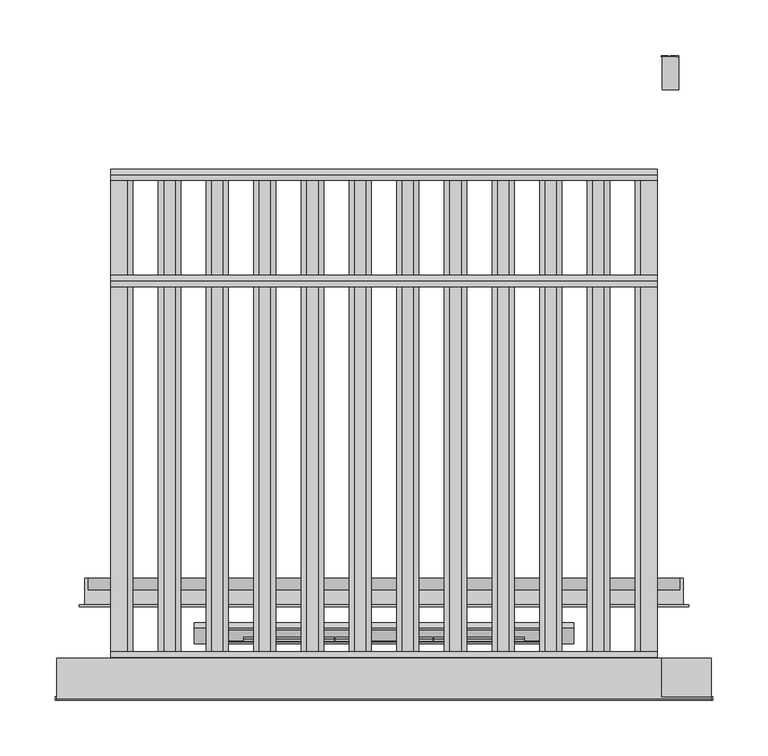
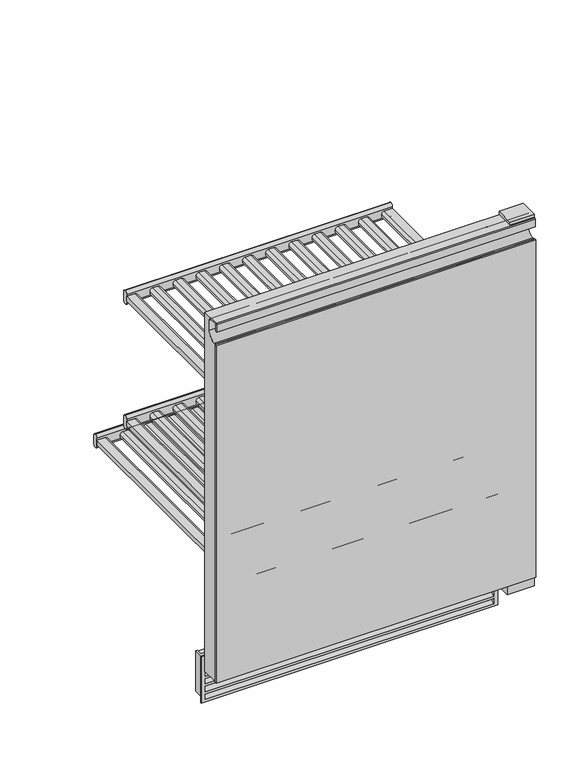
"""IFC4 building model written with IfcOpenShell, lengths in millimetres: proxy geometry, 09850180_AUS_KWT6321UG : 36632100_AUS_9850180_KWT6321UG."""

from ifc_helpers import new_model, si_unit, point, frame, frame_2d, origin, place, context, project, spatial, polyline, circle_curve, trimmed, segment, composite_curve, outline, extrude, faceted_brep, source, transform, mapped, element, save
from ifc_brep_helpers import plane_surface, cylinder_surface, revolved_surface, advanced_brep


def specialty_equipment_dfb418a5(model_context):
    return source(origin(), model_context, "Body", "SolidModel", [
        extrude(outline(composite_curve([segment(polyline([(621.6, -231.5), (621.6, -246.5), (612.2, -246.5), (612.2, -226.5), (616.6, -226.5)]), True, "CONTINUOUS"), segment(trimmed(circle_curve(frame_2d((616.6, -231.5)), 5.0), [point((616.6, -226.5))], [point((621.6, -231.5))], False, "CARTESIAN"), True, "CONTINUOUS")], self_intersect=False)), frame((0.0, 44.0, 0.0), z_axis=(0.0, 1.0, 0.0), x_axis=(0.0, 0.0, 1.0)), (0.0, 0.0, 1.0), 329.5),
        extrude(outline(composite_curve([segment(polyline([(621.6, -59.5), (621.6, -69.5)]), True, "CONTINUOUS"), segment(trimmed(circle_curve(frame_2d((616.6, -69.5)), 5.0), [point((621.6, -69.5))], [point((616.6, -74.5))], False, "CARTESIAN"), True, "CONTINUOUS"), segment(polyline([(616.6, -74.5), (612.2, -74.5), (612.2, -54.5), (616.6, -54.5)]), True, "CONTINUOUS"), segment(trimmed(circle_curve(frame_2d((616.6, -59.5)), 5.0), [point((616.6, -54.5))], [point((621.6, -59.5))], False, "CARTESIAN"), True, "CONTINUOUS")], self_intersect=False)), frame((0.0, 44.0, 0.0), z_axis=(0.0, 1.0, 0.0), x_axis=(0.0, 0.0, 1.0)), (0.0, 0.0, 1.0), 329.5),
        extrude(outline(composite_curve([segment(polyline([(621.6, -102.5), (621.6, -112.5)]), True, "CONTINUOUS"), segment(trimmed(circle_curve(frame_2d((616.6, -112.5)), 5.0), [point((621.6, -112.5))], [point((616.6, -117.5))], False, "CARTESIAN"), True, "CONTINUOUS"), segment(polyline([(616.6, -117.5), (612.2, -117.5), (612.2, -97.5), (616.6, -97.5)]), True, "CONTINUOUS"), segment(trimmed(circle_curve(frame_2d((616.6, -102.5)), 5.0), [point((616.6, -97.5))], [point((621.6, -102.5))], False, "CARTESIAN"), True, "CONTINUOUS")], self_intersect=False)), frame((0.0, 44.0, 0.0), z_axis=(0.0, 1.0, 0.0), x_axis=(0.0, 0.0, 1.0)), (0.0, 0.0, 1.0), 329.5),
        extrude(outline(composite_curve([segment(polyline([(621.6, -145.5), (621.6, -155.5)]), True, "CONTINUOUS"), segment(trimmed(circle_curve(frame_2d((616.6, -155.5)), 5.0), [point((621.6, -155.5))], [point((616.6, -160.5))], False, "CARTESIAN"), True, "CONTINUOUS"), segment(polyline([(616.6, -160.5), (612.2, -160.5), (612.2, -140.5), (616.6, -140.5)]), True, "CONTINUOUS"), segment(trimmed(circle_curve(frame_2d((616.6, -145.5)), 5.0), [point((616.6, -140.5))], [point((621.6, -145.5))], False, "CARTESIAN"), True, "CONTINUOUS")], self_intersect=False)), frame((0.0, 44.0, 0.0), z_axis=(0.0, 1.0, 0.0), x_axis=(0.0, 0.0, 1.0)), (0.0, 0.0, 1.0), 329.5),
        extrude(outline(composite_curve([segment(polyline([(621.6, -188.5), (621.6, -198.5)]), True, "CONTINUOUS"), segment(trimmed(circle_curve(frame_2d((616.6, -198.5)), 5.0), [point((621.6, -198.5))], [point((616.6, -203.5))], False, "CARTESIAN"), True, "CONTINUOUS"), segment(polyline([(616.6, -203.5), (612.2, -203.5), (612.2, -183.5), (616.6, -183.5)]), True, "CONTINUOUS"), segment(trimmed(circle_curve(frame_2d((616.6, -188.5)), 5.0), [point((616.6, -183.5))], [point((621.6, -188.5))], False, "CARTESIAN"), True, "CONTINUOUS")], self_intersect=False)), frame((0.0, 44.0, 0.0), z_axis=(0.0, 1.0, 0.0), x_axis=(0.0, 0.0, 1.0)), (0.0, 0.0, 1.0), 329.5),
        extrude(outline(composite_curve([segment(polyline([(621.6, 69.5), (621.6, 59.5)]), True, "CONTINUOUS"), segment(trimmed(circle_curve(frame_2d((616.6, 59.5)), 5.0), [point((621.6, 59.5))], [point((616.6, 54.5))], False, "CARTESIAN"), True, "CONTINUOUS"), segment(polyline([(616.6, 54.5), (612.2, 54.5), (612.2, 74.5), (616.6, 74.5)]), True, "CONTINUOUS"), segment(trimmed(circle_curve(frame_2d((616.6, 69.5)), 5.0), [point((616.6, 74.5))], [point((621.6, 69.5))], False, "CARTESIAN"), True, "CONTINUOUS")], self_intersect=False)), frame((0.0, 44.0, 0.0), z_axis=(0.0, 1.0, 0.0), x_axis=(0.0, 0.0, 1.0)), (0.0, 0.0, 1.0), 329.5),
        extrude(outline(composite_curve([segment(polyline([(621.6, 112.5), (621.6, 102.5)]), True, "CONTINUOUS"), segment(trimmed(circle_curve(frame_2d((616.6, 102.5)), 5.0), [point((621.6, 102.5))], [point((616.6, 97.5))], False, "CARTESIAN"), True, "CONTINUOUS"), segment(polyline([(616.6, 97.5), (612.2, 97.5), (612.2, 117.5), (616.6, 117.5)]), True, "CONTINUOUS"), segment(trimmed(circle_curve(frame_2d((616.6, 112.5)), 5.0), [point((616.6, 117.5))], [point((621.6, 112.5))], False, "CARTESIAN"), True, "CONTINUOUS")], self_intersect=False)), frame((0.0, 44.0, 0.0), z_axis=(0.0, 1.0, 0.0), x_axis=(0.0, 0.0, 1.0)), (0.0, 0.0, 1.0), 329.5),
        extrude(outline(composite_curve([segment(polyline([(621.6, 155.5), (621.6, 145.5)]), True, "CONTINUOUS"), segment(trimmed(circle_curve(frame_2d((616.6, 145.5)), 5.0), [point((621.6, 145.5))], [point((616.6, 140.5))], False, "CARTESIAN"), True, "CONTINUOUS"), segment(polyline([(616.6, 140.5), (612.2, 140.5), (612.2, 160.5), (616.6, 160.5)]), True, "CONTINUOUS"), segment(trimmed(circle_curve(frame_2d((616.6, 155.5)), 5.0), [point((616.6, 160.5))], [point((621.6, 155.5))], False, "CARTESIAN"), True, "CONTINUOUS")], self_intersect=False)), frame((0.0, 44.0, 0.0), z_axis=(0.0, 1.0, 0.0), x_axis=(0.0, 0.0, 1.0)), (0.0, 0.0, 1.0), 329.5),
        extrude(outline(composite_curve([segment(polyline([(621.6, 198.5), (621.6, 188.5)]), True, "CONTINUOUS"), segment(trimmed(circle_curve(frame_2d((616.6, 188.5)), 5.0), [point((621.6, 188.5))], [point((616.6, 183.5))], False, "CARTESIAN"), True, "CONTINUOUS"), segment(polyline([(616.6, 183.5), (612.2, 183.5), (612.2, 203.5), (616.6, 203.5)]), True, "CONTINUOUS"), segment(trimmed(circle_curve(frame_2d((616.6, 198.5)), 5.0), [point((616.6, 203.5))], [point((621.6, 198.5))], False, "CARTESIAN"), True, "CONTINUOUS")], self_intersect=False)), frame((0.0, 44.0, 0.0), z_axis=(0.0, 1.0, 0.0), x_axis=(0.0, 0.0, 1.0)), (0.0, 0.0, 1.0), 329.5),
        extrude(outline(composite_curve([segment(trimmed(circle_curve(frame_2d((616.6, 231.5)), 5.0), [point((621.6, 231.5))], [point((616.6, 226.5))], False, "CARTESIAN"), True, "CONTINUOUS"), segment(polyline([(616.6, 226.5), (612.2, 226.5), (612.2, 246.5), (621.6, 246.5), (621.6, 231.5)]), True, "CONTINUOUS")], self_intersect=False)), frame((0.0, 44.0, 0.0), z_axis=(0.0, 1.0, 0.0), x_axis=(0.0, 0.0, 1.0)), (0.0, 0.0, 1.0), 329.5),
        extrude(outline(composite_curve([segment(polyline([(621.6, -16.5), (621.6, -26.5)]), True, "CONTINUOUS"), segment(trimmed(circle_curve(frame_2d((616.6, -26.5)), 5.0), [point((621.6, -26.5))], [point((616.6, -31.5))], False, "CARTESIAN"), True, "CONTINUOUS"), segment(polyline([(616.6, -31.5), (612.2, -31.5), (612.2, -11.5), (616.6, -11.5)]), True, "CONTINUOUS"), segment(trimmed(circle_curve(frame_2d((616.6, -16.5)), 5.0), [point((616.6, -11.5))], [point((621.6, -16.5))], False, "CARTESIAN"), True, "CONTINUOUS")], self_intersect=False)), frame((0.0, 44.0, 0.0), z_axis=(0.0, 1.0, 0.0), x_axis=(0.0, 0.0, 1.0)), (0.0, 0.0, 1.0), 329.5),
        extrude(outline(composite_curve([segment(polyline([(621.6, 26.5), (621.6, 16.5)]), True, "CONTINUOUS"), segment(trimmed(circle_curve(frame_2d((616.6, 16.5)), 5.0), [point((621.6, 16.5))], [point((616.6, 11.5))], False, "CARTESIAN"), True, "CONTINUOUS"), segment(polyline([(616.6, 11.5), (612.2, 11.5), (612.2, 31.5), (616.6, 31.5)]), True, "CONTINUOUS"), segment(trimmed(circle_curve(frame_2d((616.6, 26.5)), 5.0), [point((616.6, 31.5))], [point((621.6, 26.5))], False, "CARTESIAN"), True, "CONTINUOUS")], self_intersect=False)), frame((0.0, 44.0, 0.0), z_axis=(0.0, 1.0, 0.0), x_axis=(0.0, 0.0, 1.0)), (0.0, 0.0, 1.0), 329.5),
        extrude(outline(composite_curve([segment(polyline([(376.6, -231.5), (376.6, -246.5), (367.2, -246.5), (367.2, -226.5), (371.6, -226.5)]), True, "CONTINUOUS"), segment(trimmed(circle_curve(frame_2d((371.6, -231.5)), 5.0), [point((371.6, -226.5))], [point((376.6, -231.5))], False, "CARTESIAN"), True, "CONTINUOUS")], self_intersect=False)), frame((0.0, 44.0, 0.0), z_axis=(0.0, 1.0, 0.0), x_axis=(0.0, 0.0, 1.0)), (0.0, 0.0, 1.0), 329.5),
        extrude(outline(composite_curve([segment(polyline([(376.6, -59.5), (376.6, -69.5)]), True, "CONTINUOUS"), segment(trimmed(circle_curve(frame_2d((371.6, -69.5)), 5.0), [point((376.6, -69.5))], [point((371.6, -74.5))], False, "CARTESIAN"), True, "CONTINUOUS"), segment(polyline([(371.6, -74.5), (367.2, -74.5), (367.2, -54.5), (371.6, -54.5)]), True, "CONTINUOUS"), segment(trimmed(circle_curve(frame_2d((371.6, -59.5)), 5.0), [point((371.6, -54.5))], [point((376.6, -59.5))], False, "CARTESIAN"), True, "CONTINUOUS")], self_intersect=False)), frame((0.0, 44.0, 0.0), z_axis=(0.0, 1.0, 0.0), x_axis=(0.0, 0.0, 1.0)), (0.0, 0.0, 1.0), 329.5),
        extrude(outline(composite_curve([segment(polyline([(376.6, -102.5), (376.6, -112.5)]), True, "CONTINUOUS"), segment(trimmed(circle_curve(frame_2d((371.6, -112.5)), 5.0), [point((376.6, -112.5))], [point((371.6, -117.5))], False, "CARTESIAN"), True, "CONTINUOUS"), segment(polyline([(371.6, -117.5), (367.2, -117.5), (367.2, -97.5), (371.6, -97.5)]), True, "CONTINUOUS"), segment(trimmed(circle_curve(frame_2d((371.6, -102.5)), 5.0), [point((371.6, -97.5))], [point((376.6, -102.5))], False, "CARTESIAN"), True, "CONTINUOUS")], self_intersect=False)), frame((0.0, 44.0, 0.0), z_axis=(0.0, 1.0, 0.0), x_axis=(0.0, 0.0, 1.0)), (0.0, 0.0, 1.0), 329.5),
        extrude(outline(composite_curve([segment(polyline([(376.6, -145.5), (376.6, -155.5)]), True, "CONTINUOUS"), segment(trimmed(circle_curve(frame_2d((371.6, -155.5)), 5.0), [point((376.6, -155.5))], [point((371.6, -160.5))], False, "CARTESIAN"), True, "CONTINUOUS"), segment(polyline([(371.6, -160.5), (367.2, -160.5), (367.2, -140.5), (371.6, -140.5)]), True, "CONTINUOUS"), segment(trimmed(circle_curve(frame_2d((371.6, -145.5)), 5.0), [point((371.6, -140.5))], [point((376.6, -145.5))], False, "CARTESIAN"), True, "CONTINUOUS")], self_intersect=False)), frame((0.0, 44.0, 0.0), z_axis=(0.0, 1.0, 0.0), x_axis=(0.0, 0.0, 1.0)), (0.0, 0.0, 1.0), 329.5),
        extrude(outline(composite_curve([segment(polyline([(376.6, -188.5), (376.6, -198.5)]), True, "CONTINUOUS"), segment(trimmed(circle_curve(frame_2d((371.6, -198.5)), 5.0), [point((376.6, -198.5))], [point((371.6, -203.5))], False, "CARTESIAN"), True, "CONTINUOUS"), segment(polyline([(371.6, -203.5), (367.2, -203.5), (367.2, -183.5), (371.6, -183.5)]), True, "CONTINUOUS"), segment(trimmed(circle_curve(frame_2d((371.6, -188.5)), 5.0), [point((371.6, -183.5))], [point((376.6, -188.5))], False, "CARTESIAN"), True, "CONTINUOUS")], self_intersect=False)), frame((0.0, 44.0, 0.0), z_axis=(0.0, 1.0, 0.0), x_axis=(0.0, 0.0, 1.0)), (0.0, 0.0, 1.0), 329.5),
        extrude(outline(composite_curve([segment(polyline([(376.6, 69.5), (376.6, 59.5)]), True, "CONTINUOUS"), segment(trimmed(circle_curve(frame_2d((371.6, 59.5)), 5.0), [point((376.6, 59.5))], [point((371.6, 54.5))], False, "CARTESIAN"), True, "CONTINUOUS"), segment(polyline([(371.6, 54.5), (367.2, 54.5), (367.2, 74.5), (371.6, 74.5)]), True, "CONTINUOUS"), segment(trimmed(circle_curve(frame_2d((371.6, 69.5)), 5.0), [point((371.6, 74.5))], [point((376.6, 69.5))], False, "CARTESIAN"), True, "CONTINUOUS")], self_intersect=False)), frame((0.0, 44.0, 0.0), z_axis=(0.0, 1.0, 0.0), x_axis=(0.0, 0.0, 1.0)), (0.0, 0.0, 1.0), 329.5),
        extrude(outline(composite_curve([segment(polyline([(376.6, 112.5), (376.6, 102.5)]), True, "CONTINUOUS"), segment(trimmed(circle_curve(frame_2d((371.6, 102.5)), 5.0), [point((376.6, 102.5))], [point((371.6, 97.5))], False, "CARTESIAN"), True, "CONTINUOUS"), segment(polyline([(371.6, 97.5), (367.2, 97.5), (367.2, 117.5), (371.6, 117.5)]), True, "CONTINUOUS"), segment(trimmed(circle_curve(frame_2d((371.6, 112.5)), 5.0), [point((371.6, 117.5))], [point((376.6, 112.5))], False, "CARTESIAN"), True, "CONTINUOUS")], self_intersect=False)), frame((0.0, 44.0, 0.0), z_axis=(0.0, 1.0, 0.0), x_axis=(0.0, 0.0, 1.0)), (0.0, 0.0, 1.0), 329.5),
        extrude(outline(composite_curve([segment(polyline([(376.6, 155.5), (376.6, 145.5)]), True, "CONTINUOUS"), segment(trimmed(circle_curve(frame_2d((371.6, 145.5)), 5.0), [point((376.6, 145.5))], [point((371.6, 140.5))], False, "CARTESIAN"), True, "CONTINUOUS"), segment(polyline([(371.6, 140.5), (367.2, 140.5), (367.2, 160.5), (371.6, 160.5)]), True, "CONTINUOUS"), segment(trimmed(circle_curve(frame_2d((371.6, 155.5)), 5.0), [point((371.6, 160.5))], [point((376.6, 155.5))], False, "CARTESIAN"), True, "CONTINUOUS")], self_intersect=False)), frame((0.0, 44.0, 0.0), z_axis=(0.0, 1.0, 0.0), x_axis=(0.0, 0.0, 1.0)), (0.0, 0.0, 1.0), 329.5),
        extrude(outline(composite_curve([segment(polyline([(376.6, 198.5), (376.6, 188.5)]), True, "CONTINUOUS"), segment(trimmed(circle_curve(frame_2d((371.6, 188.5)), 5.0), [point((376.6, 188.5))], [point((371.6, 183.5))], False, "CARTESIAN"), True, "CONTINUOUS"), segment(polyline([(371.6, 183.5), (367.2, 183.5), (367.2, 203.5), (371.6, 203.5)]), True, "CONTINUOUS"), segment(trimmed(circle_curve(frame_2d((371.6, 198.5)), 5.0), [point((371.6, 203.5))], [point((376.6, 198.5))], False, "CARTESIAN"), True, "CONTINUOUS")], self_intersect=False)), frame((0.0, 44.0, 0.0), z_axis=(0.0, 1.0, 0.0), x_axis=(0.0, 0.0, 1.0)), (0.0, 0.0, 1.0), 329.5),
        extrude(outline(composite_curve([segment(trimmed(circle_curve(frame_2d((371.6, 231.5)), 5.0), [point((376.6, 231.5))], [point((371.6, 226.5))], False, "CARTESIAN"), True, "CONTINUOUS"), segment(polyline([(371.6, 226.5), (367.2, 226.5), (367.2, 246.5), (376.6, 246.5), (376.6, 231.5)]), True, "CONTINUOUS")], self_intersect=False)), frame((0.0, 44.0, 0.0), z_axis=(0.0, 1.0, 0.0), x_axis=(0.0, 0.0, 1.0)), (0.0, 0.0, 1.0), 329.5),
        extrude(outline(composite_curve([segment(polyline([(376.6, -16.5), (376.6, -26.5)]), True, "CONTINUOUS"), segment(trimmed(circle_curve(frame_2d((371.6, -26.5)), 5.0), [point((376.6, -26.5))], [point((371.6, -31.5))], False, "CARTESIAN"), True, "CONTINUOUS"), segment(polyline([(371.6, -31.5), (367.2, -31.5), (367.2, -11.5), (371.6, -11.5)]), True, "CONTINUOUS"), segment(trimmed(circle_curve(frame_2d((371.6, -16.5)), 5.0), [point((371.6, -11.5))], [point((376.6, -16.5))], False, "CARTESIAN"), True, "CONTINUOUS")], self_intersect=False)), frame((0.0, 44.0, 0.0), z_axis=(0.0, 1.0, 0.0), x_axis=(0.0, 0.0, 1.0)), (0.0, 0.0, 1.0), 329.5),
        extrude(outline(composite_curve([segment(polyline([(376.6, 26.5), (376.6, 16.5)]), True, "CONTINUOUS"), segment(trimmed(circle_curve(frame_2d((371.6, 16.5)), 5.0), [point((376.6, 16.5))], [point((371.6, 11.5))], False, "CARTESIAN"), True, "CONTINUOUS"), segment(polyline([(371.6, 11.5), (367.2, 11.5), (367.2, 31.5), (371.6, 31.5)]), True, "CONTINUOUS"), segment(trimmed(circle_curve(frame_2d((371.6, 26.5)), 5.0), [point((371.6, 31.5))], [point((376.6, 26.5))], False, "CARTESIAN"), True, "CONTINUOUS")], self_intersect=False)), frame((0.0, 44.0, 0.0), z_axis=(0.0, 1.0, 0.0), x_axis=(0.0, 0.0, 1.0)), (0.0, 0.0, 1.0), 329.5),
        extrude(outline(composite_curve([segment(trimmed(circle_curve(frame_2d((39.0, 625.2)), 5.0), [point((34.0, 625.2))], [point((39.0, 630.2))], False, "CARTESIAN"), True, "CONTINUOUS"), segment(trimmed(circle_curve(frame_2d((39.0, 625.2)), 5.0), [point((39.0, 630.2))], [point((44.0, 625.2))], False, "CARTESIAN"), True, "CONTINUOUS"), segment(polyline([(44.0, 625.2), (44.0, 609.2)]), True, "CONTINUOUS"), segment(trimmed(circle_curve(frame_2d((39.0, 609.2)), 5.0), [point((44.0, 609.2))], [point((39.0, 604.2))], False, "CARTESIAN"), True, "CONTINUOUS"), segment(trimmed(circle_curve(frame_2d((39.0, 609.2)), 5.0), [point((39.0, 604.2))], [point((34.0, 609.2))], False, "CARTESIAN"), True, "CONTINUOUS"), segment(polyline([(34.0, 609.2), (34.0, 625.2)]), True, "CONTINUOUS")], self_intersect=False)), frame((-246.5, 0.0, 0.0), z_axis=(1.0, 0.0, 0.0), x_axis=(0.0, 1.0, 0.0)), (0.0, 0.0, 1.0), 493.0),
        extrude(outline(composite_curve([segment(trimmed(circle_curve(frame_2d((378.5, 625.2)), 5.0), [point((373.5, 625.2))], [point((378.5, 630.2))], False, "CARTESIAN"), True, "CONTINUOUS"), segment(trimmed(circle_curve(frame_2d((378.5, 625.2)), 5.0), [point((378.5, 630.2))], [point((383.5, 625.2))], False, "CARTESIAN"), True, "CONTINUOUS"), segment(polyline([(383.5, 625.2), (383.5, 609.2)]), True, "CONTINUOUS"), segment(trimmed(circle_curve(frame_2d((378.5, 609.2)), 5.0), [point((383.5, 609.2))], [point((378.5, 604.2))], False, "CARTESIAN"), True, "CONTINUOUS"), segment(trimmed(circle_curve(frame_2d((378.5, 609.2)), 5.0), [point((378.5, 604.2))], [point((373.5, 609.2))], False, "CARTESIAN"), True, "CONTINUOUS"), segment(polyline([(373.5, 609.2), (373.5, 625.2)]), True, "CONTINUOUS")], self_intersect=False)), frame((-246.5, 0.0, 0.0), z_axis=(1.0, 0.0, 0.0), x_axis=(0.0, 1.0, 0.0)), (0.0, 0.0, 1.0), 493.0),
        extrude(outline(composite_curve([segment(trimmed(circle_curve(frame_2d((39.0, 380.2)), 5.0), [point((39.0, 385.2))], [point((44.0, 380.2))], False, "CARTESIAN"), True, "CONTINUOUS"), segment(polyline([(44.0, 380.2), (44.0, 364.2)]), True, "CONTINUOUS"), segment(trimmed(circle_curve(frame_2d((39.0, 364.2)), 5.0), [point((44.0, 364.2))], [point((39.0, 359.2))], False, "CARTESIAN"), True, "CONTINUOUS"), segment(trimmed(circle_curve(frame_2d((39.0, 364.2)), 5.0), [point((39.0, 359.2))], [point((34.0, 364.2))], False, "CARTESIAN"), True, "CONTINUOUS"), segment(polyline([(34.0, 364.2), (34.0, 380.2)]), True, "CONTINUOUS"), segment(trimmed(circle_curve(frame_2d((39.0, 380.2)), 5.0), [point((34.0, 380.2))], [point((39.0, 385.2))], False, "CARTESIAN"), True, "CONTINUOUS")], self_intersect=False)), frame((-246.5, 0.0, 0.0), z_axis=(1.0, 0.0, 0.0), x_axis=(0.0, 1.0, 0.0)), (0.0, 0.0, 1.0), 493.0),
        extrude(outline(composite_curve([segment(polyline([(383.5, 380.2), (383.5, 364.2)]), True, "CONTINUOUS"), segment(trimmed(circle_curve(frame_2d((378.5, 364.2)), 5.0), [point((383.5, 364.2))], [point((378.5, 359.2))], False, "CARTESIAN"), True, "CONTINUOUS"), segment(trimmed(circle_curve(frame_2d((378.5, 364.2)), 5.0), [point((378.5, 359.2))], [point((373.5, 364.2))], False, "CARTESIAN"), True, "CONTINUOUS"), segment(polyline([(373.5, 364.2), (373.5, 380.2)]), True, "CONTINUOUS"), segment(trimmed(circle_curve(frame_2d((378.5, 380.2)), 5.0), [point((373.5, 380.2))], [point((378.5, 385.2))], False, "CARTESIAN"), True, "CONTINUOUS"), segment(trimmed(circle_curve(frame_2d((378.5, 380.2)), 5.0), [point((378.5, 385.2))], [point((383.5, 380.2))], False, "CARTESIAN"), True, "CONTINUOUS")], self_intersect=False)), frame((-246.5, 0.0, 0.0), z_axis=(1.0, 0.0, 0.0), x_axis=(0.0, 1.0, 0.0)), (0.0, 0.0, 1.0), 493.0),
        extrude(outline(composite_curve([segment(polyline([(44.0, 285.2), (44.0, 269.2)]), True, "CONTINUOUS"), segment(trimmed(circle_curve(frame_2d((39.0, 269.2)), 5.0), [point((44.0, 269.2))], [point((39.0, 264.2))], False, "CARTESIAN"), True, "CONTINUOUS"), segment(trimmed(circle_curve(frame_2d((39.0, 269.2)), 5.0), [point((39.0, 264.2))], [point((34.0, 269.2))], False, "CARTESIAN"), True, "CONTINUOUS"), segment(polyline([(34.0, 269.2), (34.0, 285.2)]), True, "CONTINUOUS"), segment(trimmed(circle_curve(frame_2d((39.0, 285.2)), 5.0), [point((34.0, 285.2))], [point((39.0, 290.2))], False, "CARTESIAN"), True, "CONTINUOUS"), segment(trimmed(circle_curve(frame_2d((39.0, 285.2)), 5.0), [point((39.0, 290.2))], [point((44.0, 285.2))], False, "CARTESIAN"), True, "CONTINUOUS")], self_intersect=False)), frame((-246.5, 0.0, 0.0), z_axis=(1.0, 0.0, 0.0), x_axis=(0.0, 1.0, 0.0)), (0.0, 0.0, 1.0), 493.0),
        extrude(outline(composite_curve([segment(trimmed(circle_curve(frame_2d((474.5, 285.2)), 5.0), [point((469.5, 285.2))], [point((474.5, 290.2))], False, "CARTESIAN"), True, "CONTINUOUS"), segment(trimmed(circle_curve(frame_2d((474.5, 285.2)), 5.0), [point((474.5, 290.2))], [point((479.5, 285.2))], False, "CARTESIAN"), True, "CONTINUOUS"), segment(polyline([(479.5, 285.2), (479.5, 269.2)]), True, "CONTINUOUS"), segment(trimmed(circle_curve(frame_2d((474.5, 269.2)), 5.0), [point((479.5, 269.2))], [point((474.5, 264.2))], False, "CARTESIAN"), True, "CONTINUOUS"), segment(trimmed(circle_curve(frame_2d((474.5, 269.2)), 5.0), [point((474.5, 264.2))], [point((469.5, 269.2))], False, "CARTESIAN"), True, "CONTINUOUS"), segment(polyline([(469.5, 269.2), (469.5, 285.2)]), True, "CONTINUOUS")], self_intersect=False)), frame((-246.5, 0.0, 0.0), z_axis=(1.0, 0.0, 0.0), x_axis=(0.0, 1.0, 0.0)), (0.0, 0.0, 1.0), 493.0),
        extrude(outline(composite_curve([segment(polyline([(281.6, -231.5), (281.6, -246.5), (272.2, -246.5), (272.2, -226.5), (276.6, -226.5)]), True, "CONTINUOUS"), segment(trimmed(circle_curve(frame_2d((276.6, -231.5)), 5.0), [point((276.6, -226.5))], [point((281.6, -231.5))], False, "CARTESIAN"), True, "CONTINUOUS")], self_intersect=False)), frame((0.0, 44.0, 0.0), z_axis=(0.0, 1.0, 0.0), x_axis=(0.0, 0.0, 1.0)), (0.0, 0.0, 1.0), 425.5),
        extrude(outline(composite_curve([segment(polyline([(281.6, -59.5), (281.6, -69.5)]), True, "CONTINUOUS"), segment(trimmed(circle_curve(frame_2d((276.6, -69.5)), 5.0), [point((281.6, -69.5))], [point((276.6, -74.5))], False, "CARTESIAN"), True, "CONTINUOUS"), segment(polyline([(276.6, -74.5), (272.2, -74.5), (272.2, -54.5), (276.6, -54.5)]), True, "CONTINUOUS"), segment(trimmed(circle_curve(frame_2d((276.6, -59.5)), 5.0), [point((276.6, -54.5))], [point((281.6, -59.5))], False, "CARTESIAN"), True, "CONTINUOUS")], self_intersect=False)), frame((0.0, 44.0, 0.0), z_axis=(0.0, 1.0, 0.0), x_axis=(0.0, 0.0, 1.0)), (0.0, 0.0, 1.0), 425.5),
        extrude(outline(composite_curve([segment(polyline([(281.6, -102.5), (281.6, -112.5)]), True, "CONTINUOUS"), segment(trimmed(circle_curve(frame_2d((276.6, -112.5)), 5.0), [point((281.6, -112.5))], [point((276.6, -117.5))], False, "CARTESIAN"), True, "CONTINUOUS"), segment(polyline([(276.6, -117.5), (272.2, -117.5), (272.2, -97.5), (276.6, -97.5)]), True, "CONTINUOUS"), segment(trimmed(circle_curve(frame_2d((276.6, -102.5)), 5.0), [point((276.6, -97.5))], [point((281.6, -102.5))], False, "CARTESIAN"), True, "CONTINUOUS")], self_intersect=False)), frame((0.0, 44.0, 0.0), z_axis=(0.0, 1.0, 0.0), x_axis=(0.0, 0.0, 1.0)), (0.0, 0.0, 1.0), 425.5),
        extrude(outline(composite_curve([segment(polyline([(281.6, -145.5), (281.6, -155.5)]), True, "CONTINUOUS"), segment(trimmed(circle_curve(frame_2d((276.6, -155.5)), 5.0), [point((281.6, -155.5))], [point((276.6, -160.5))], False, "CARTESIAN"), True, "CONTINUOUS"), segment(polyline([(276.6, -160.5), (272.2, -160.5), (272.2, -140.5), (276.6, -140.5)]), True, "CONTINUOUS"), segment(trimmed(circle_curve(frame_2d((276.6, -145.5)), 5.0), [point((276.6, -140.5))], [point((281.6, -145.5))], False, "CARTESIAN"), True, "CONTINUOUS")], self_intersect=False)), frame((0.0, 44.0, 0.0), z_axis=(0.0, 1.0, 0.0), x_axis=(0.0, 0.0, 1.0)), (0.0, 0.0, 1.0), 425.5),
        extrude(outline(composite_curve([segment(polyline([(281.6, -188.5), (281.6, -198.5)]), True, "CONTINUOUS"), segment(trimmed(circle_curve(frame_2d((276.6, -198.5)), 5.0), [point((281.6, -198.5))], [point((276.6, -203.5))], False, "CARTESIAN"), True, "CONTINUOUS"), segment(polyline([(276.6, -203.5), (272.2, -203.5), (272.2, -183.5), (276.6, -183.5)]), True, "CONTINUOUS"), segment(trimmed(circle_curve(frame_2d((276.6, -188.5)), 5.0), [point((276.6, -183.5))], [point((281.6, -188.5))], False, "CARTESIAN"), True, "CONTINUOUS")], self_intersect=False)), frame((0.0, 44.0, 0.0), z_axis=(0.0, 1.0, 0.0), x_axis=(0.0, 0.0, 1.0)), (0.0, 0.0, 1.0), 425.5),
        extrude(outline(composite_curve([segment(polyline([(281.6, 69.5), (281.6, 59.5)]), True, "CONTINUOUS"), segment(trimmed(circle_curve(frame_2d((276.6, 59.5)), 5.0), [point((281.6, 59.5))], [point((276.6, 54.5))], False, "CARTESIAN"), True, "CONTINUOUS"), segment(polyline([(276.6, 54.5), (272.2, 54.5), (272.2, 74.5), (276.6, 74.5)]), True, "CONTINUOUS"), segment(trimmed(circle_curve(frame_2d((276.6, 69.5)), 5.0), [point((276.6, 74.5))], [point((281.6, 69.5))], False, "CARTESIAN"), True, "CONTINUOUS")], self_intersect=False)), frame((0.0, 44.0, 0.0), z_axis=(0.0, 1.0, 0.0), x_axis=(0.0, 0.0, 1.0)), (0.0, 0.0, 1.0), 425.5),
        extrude(outline(composite_curve([segment(polyline([(281.6, 112.5), (281.6, 102.5)]), True, "CONTINUOUS"), segment(trimmed(circle_curve(frame_2d((276.6, 102.5)), 5.0), [point((281.6, 102.5))], [point((276.6, 97.5))], False, "CARTESIAN"), True, "CONTINUOUS"), segment(polyline([(276.6, 97.5), (272.2, 97.5), (272.2, 117.5), (276.6, 117.5)]), True, "CONTINUOUS"), segment(trimmed(circle_curve(frame_2d((276.6, 112.5)), 5.0), [point((276.6, 117.5))], [point((281.6, 112.5))], False, "CARTESIAN"), True, "CONTINUOUS")], self_intersect=False)), frame((0.0, 44.0, 0.0), z_axis=(0.0, 1.0, 0.0), x_axis=(0.0, 0.0, 1.0)), (0.0, 0.0, 1.0), 425.5),
        extrude(outline(composite_curve([segment(polyline([(281.6, 155.5), (281.6, 145.5)]), True, "CONTINUOUS"), segment(trimmed(circle_curve(frame_2d((276.6, 145.5)), 5.0), [point((281.6, 145.5))], [point((276.6, 140.5))], False, "CARTESIAN"), True, "CONTINUOUS"), segment(polyline([(276.6, 140.5), (272.2, 140.5), (272.2, 160.5), (276.6, 160.5)]), True, "CONTINUOUS"), segment(trimmed(circle_curve(frame_2d((276.6, 155.5)), 5.0), [point((276.6, 160.5))], [point((281.6, 155.5))], False, "CARTESIAN"), True, "CONTINUOUS")], self_intersect=False)), frame((0.0, 44.0, 0.0), z_axis=(0.0, 1.0, 0.0), x_axis=(0.0, 0.0, 1.0)), (0.0, 0.0, 1.0), 425.5),
        extrude(outline(composite_curve([segment(polyline([(281.6, 198.5), (281.6, 188.5)]), True, "CONTINUOUS"), segment(trimmed(circle_curve(frame_2d((276.6, 188.5)), 5.0), [point((281.6, 188.5))], [point((276.6, 183.5))], False, "CARTESIAN"), True, "CONTINUOUS"), segment(polyline([(276.6, 183.5), (272.2, 183.5), (272.2, 203.5), (276.6, 203.5)]), True, "CONTINUOUS"), segment(trimmed(circle_curve(frame_2d((276.6, 198.5)), 5.0), [point((276.6, 203.5))], [point((281.6, 198.5))], False, "CARTESIAN"), True, "CONTINUOUS")], self_intersect=False)), frame((0.0, 44.0, 0.0), z_axis=(0.0, 1.0, 0.0), x_axis=(0.0, 0.0, 1.0)), (0.0, 0.0, 1.0), 425.5),
        extrude(outline(composite_curve([segment(trimmed(circle_curve(frame_2d((276.6, 231.5)), 5.0), [point((281.6, 231.5))], [point((276.6, 226.5))], False, "CARTESIAN"), True, "CONTINUOUS"), segment(polyline([(276.6, 226.5), (272.2, 226.5), (272.2, 246.5), (281.6, 246.5), (281.6, 231.5)]), True, "CONTINUOUS")], self_intersect=False)), frame((0.0, 44.0, 0.0), z_axis=(0.0, 1.0, 0.0), x_axis=(0.0, 0.0, 1.0)), (0.0, 0.0, 1.0), 425.5),
        extrude(outline(composite_curve([segment(polyline([(281.6, -16.5), (281.6, -26.5)]), True, "CONTINUOUS"), segment(trimmed(circle_curve(frame_2d((276.6, -26.5)), 5.0), [point((281.6, -26.5))], [point((276.6, -31.5))], False, "CARTESIAN"), True, "CONTINUOUS"), segment(polyline([(276.6, -31.5), (272.2, -31.5), (272.2, -11.5), (276.6, -11.5)]), True, "CONTINUOUS"), segment(trimmed(circle_curve(frame_2d((276.6, -16.5)), 5.0), [point((276.6, -11.5))], [point((281.6, -16.5))], False, "CARTESIAN"), True, "CONTINUOUS")], self_intersect=False)), frame((0.0, 44.0, 0.0), z_axis=(0.0, 1.0, 0.0), x_axis=(0.0, 0.0, 1.0)), (0.0, 0.0, 1.0), 425.5),
        extrude(outline(composite_curve([segment(polyline([(281.6, 26.5), (281.6, 16.5)]), True, "CONTINUOUS"), segment(trimmed(circle_curve(frame_2d((276.6, 16.5)), 5.0), [point((281.6, 16.5))], [point((276.6, 11.5))], False, "CARTESIAN"), True, "CONTINUOUS"), segment(polyline([(276.6, 11.5), (272.2, 11.5), (272.2, 31.5), (276.6, 31.5)]), True, "CONTINUOUS"), segment(trimmed(circle_curve(frame_2d((276.6, 26.5)), 5.0), [point((276.6, 31.5))], [point((281.6, 26.5))], False, "CARTESIAN"), True, "CONTINUOUS")], self_intersect=False)), frame((0.0, 44.0, 0.0), z_axis=(0.0, 1.0, 0.0), x_axis=(0.0, 0.0, 1.0)), (0.0, 0.0, 1.0), 425.5),
        extrude(outline(polyline([(0.0, -1.8), (0.0, 0.0), (26.5, 0.0), (26.5, -1.8), (0.0, -1.8)])), frame((126.5, 53.3966894, 480.1994317), z_axis=(0.0, 0.2588190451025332, 0.965925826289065), x_axis=(-1.0, 0.0, 0.0)), (0.0, 0.0, 1.0), 8.5),
        extrude(outline(polyline([(253.0, 0.0), (253.0, -1.8), (226.5, -1.8), (226.5, 0.0), (253.0, 0.0)])), frame((126.5, 53.3966894, 480.1994317), z_axis=(0.0, 0.2588190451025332, 0.965925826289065), x_axis=(-1.0, 0.0, 0.0)), (0.0, 0.0, 1.0), 8.5),
        extrude(outline(polyline([(199.0, 0.0), (225.5, 0.0), (225.5, -1.8), (199.0, -1.8), (199.0, 0.0)])), frame((126.5, 53.3966894, 480.1994317), z_axis=(0.0, 0.2588190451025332, 0.965925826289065), x_axis=(-1.0, 0.0, 0.0)), (0.0, 0.0, 1.0), 8.5),
        extrude(outline(polyline([(171.5, 0.0), (198.0, 0.0), (198.0, -1.8), (171.5, -1.8), (171.5, 0.0)])), frame((126.5, 53.3966894, 480.1994317), z_axis=(0.0, 0.2588190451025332, 0.965925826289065), x_axis=(-1.0, 0.0, 0.0)), (0.0, 0.0, 1.0), 8.5),
        extrude(outline(polyline([(144.0, 0.0), (170.5, 0.0), (170.5, -1.8), (144.0, -1.8), (144.0, 0.0)])), frame((126.5, 53.3966894, 480.1994317), z_axis=(0.0, 0.2588190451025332, 0.965925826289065), x_axis=(-1.0, 0.0, 0.0)), (0.0, 0.0, 1.0), 8.5),
        extrude(outline(polyline([(82.5, 0.0), (109.0, 0.0), (109.0, -1.8), (82.5, -1.8), (82.5, 0.0)])), frame((126.5, 53.3966894, 480.1994317), z_axis=(0.0, 0.2588190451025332, 0.965925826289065), x_axis=(-1.0, 0.0, 0.0)), (0.0, 0.0, 1.0), 8.5),
        extrude(outline(polyline([(55.0, 0.0), (81.5, 0.0), (81.5, -1.8), (55.0, -1.8), (55.0, 0.0)])), frame((126.5, 53.3966894, 480.1994317), z_axis=(0.0, 0.2588190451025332, 0.965925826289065), x_axis=(-1.0, 0.0, 0.0)), (0.0, 0.0, 1.0), 8.5),
        extrude(outline(polyline([(27.5, 0.0), (54.0, 0.0), (54.0, -1.8), (27.5, -1.8), (27.5, 0.0)])), frame((126.5, 53.3966894, 480.1994317), z_axis=(0.0, 0.2588190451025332, 0.965925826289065), x_axis=(-1.0, 0.0, 0.0)), (0.0, 0.0, 1.0), 8.5),
        faceted_brep([(171.0, 51.2877454, 467.3059312), (171.0, 56.6003374, 465.8824265), (171.0, 70.3177468, 517.0764953), (171.0, 65.0051548, 518.5), (-171.0, 51.2877454, 467.3059312), (-171.0, 65.0051548, 518.5), (-171.0, 70.3177468, 517.0764953), (-171.0, 56.6003374, 465.8824265), (147.5, 63.1934215, 511.7385192), (147.5, 53.0994787, 474.067412), (-147.5, 53.0994787, 474.067412), (-147.5, 63.1934215, 511.7385192), (147.5, 63.6763844, 511.6091097), (147.5, 53.5824416, 473.9380025), (-147.5, 53.5824416, 473.9380025), (-147.5, 63.6763844, 511.6091097)], [[[0, 1, 2, 3]], [[4, 5, 6, 7]], [[1, 0, 4, 7]], [[2, 1, 7, 6]], [[3, 2, 6, 5]], [[0, 3, 5, 4], [8, 9, 10, 11]], [[12, 13, 9, 8]], [[14, 15, 11, 10]], [[15, 12, 8, 11]], [[13, 14, 10, 9]], [[13, 12, 15, 14]]]),
        advanced_brep(
        [(-242.0, 3.2, 717.5), (-242.0, 38.0, 717.5), (242.0, 38.0, 717.5), (242.0, 3.2, 717.5), (-242.0, 3.2, 201.0), (-242.0, 38.0, 201.0), (242.0, 3.2, 201.0), (242.0, 38.0, 201.0), (295.5, 38.0, 811.5), (295.5, 1.5, 811.5), (295.5, 0.0, 810.0), (295.5, 0.0, 794.9), (295.5, 3.2, 794.9), (295.5, 3.2, 809.7), (295.5, 18.0, 809.7), (295.5, 23.0, 804.7), (295.5, 23.0, 785.0), (295.5, 7.0, 769.0), (295.5, 3.2, 769.0), (295.5, 3.2, 107.0), (295.5, 38.0, 107.0), (-295.5, 38.0, 811.5), (-295.5, 38.0, 107.0), (-295.5, 3.2, 107.0), (-295.5, 3.2, 769.0), (-295.5, 7.0, 769.0), (-295.5, 23.0, 785.0), (-295.5, 23.0, 804.7), (-295.5, 18.0, 809.7), (-295.5, 3.2, 809.7), (-295.5, 3.2, 794.9), (-295.5, 0.0, 794.9), (-295.5, 0.0, 810.0), (-295.5, 1.5, 811.5)],
        [
            (0, 1),
            (1, 2),
            (2, 3),
            (3, 0),
            (0, 4),
            (4, 5),
            (5, 1),
            (4, 6),
            (6, 7),
            (7, 5),
            (2, 7),
            (6, 3),
            (8, 9),
            (9, 10, circle_curve(frame((295.5, 1.5, 810.0), z_axis=(1.0, 0.0, 0.0), x_axis=(0.0, 1.0, 0.0)), 1.5)),
            (10, 11),
            (11, 12),
            (12, 13),
            (13, 14),
            (14, 15, circle_curve(frame((295.5, 18.0, 804.7), z_axis=(-1.0, 0.0, 0.0), x_axis=(0.0, 1.0, 0.0)), 5.0)),
            (15, 16),
            (16, 17, circle_curve(frame((295.5, 7.0, 785.0), z_axis=(-1.0, 0.0, 0.0), x_axis=(0.0, 1.0, 0.0)), 16.0)),
            (17, 18),
            (18, 19),
            (19, 20),
            (20, 8),
            (21, 22),
            (22, 23),
            (23, 24),
            (24, 25),
            (25, 26, circle_curve(frame((-295.5, 7.0, 785.0), z_axis=(1.0, 0.0, 0.0), x_axis=(0.0, 1.0, 0.0)), 16.0)),
            (26, 27),
            (27, 28, circle_curve(frame((-295.5, 18.0, 804.7), z_axis=(1.0, 0.0, 0.0), x_axis=(0.0, 1.0, 0.0)), 5.0)),
            (28, 29),
            (29, 30),
            (30, 31),
            (31, 32),
            (32, 33, circle_curve(frame((-295.5, 1.5, 810.0), z_axis=(-1.0, 0.0, 0.0), x_axis=(0.0, 1.0, 0.0)), 1.5)),
            (33, 21),
            (8, 21),
            (33, 9),
            (10, 32),
            (31, 11),
            (30, 12),
            (29, 13),
            (28, 14),
            (27, 15),
            (26, 16),
            (25, 17),
            (24, 18),
            (23, 19),
            (22, 20),
        ],
        [
            plane_surface(frame((242.0, 3.2, 717.5), z_axis=(0.0, 0.0, -1.0), x_axis=(0.0, 1.0, 0.0))),
            plane_surface(frame((-242.0, 3.2, 717.5), z_axis=(1.0, 0.0, 0.0), x_axis=(0.0, 1.0, 0.0))),
            plane_surface(frame((-242.0, 3.2, 201.0), z_axis=(0.0, 0.0, 1.0), x_axis=(0.0, 1.0, 0.0))),
            plane_surface(frame((242.0, 3.2, 201.0), z_axis=(-1.0, 0.0, 0.0), x_axis=(0.0, 1.0, 0.0))),
            plane_surface(frame((295.5, 1.5, 811.5), z_axis=(1.0, 0.0, 0.0), x_axis=(0.0, -1.0, 0.0))),
            plane_surface(frame((-295.5, 1.5, 811.5), z_axis=(-1.0, 0.0, 0.0), x_axis=(0.0, 1.0, 0.0))),
            plane_surface(frame((295.5, 38.0, 811.5), z_axis=(0.0, 0.0, 1.0), x_axis=(-1.0, 0.0, 0.0))),
            plane_surface(frame((295.5, 0.0, 810.0), z_axis=(0.0, -1.0, 0.0), x_axis=(-1.0, 0.0, 0.0))),
            plane_surface(frame((295.5, 0.0, 794.9), z_axis=(0.0, 0.0, -1.0), x_axis=(-1.0, 0.0, 0.0))),
            plane_surface(frame((295.5, 3.2, 794.9), z_axis=(0.0, 1.0, 0.0), x_axis=(-1.0, 0.0, 0.0))),
            plane_surface(frame((295.5, 3.2, 809.7), z_axis=(0.0, 0.0, -1.0), x_axis=(-1.0, 0.0, 0.0))),
            revolved_surface(polyline([(-295.5, 23.0, 804.7), (295.5, 23.0, 804.7)]), (-295.5, 18.0, 804.7), (-1.0, 0.0, 0.0)),
            plane_surface(frame((295.5, 23.0, 804.7), z_axis=(0.0, -1.0, 0.0), x_axis=(-1.0, 0.0, 0.0))),
            revolved_surface(polyline([(-295.5, 23.0, 785.0), (295.5, 23.0, 785.0)]), (-295.5, 7.0, 785.0), (-1.0, 0.0, 0.0)),
            plane_surface(frame((295.5, 7.0, 769.0), z_axis=(0.0, 0.0, 1.0), x_axis=(-1.0, 0.0, 0.0))),
            plane_surface(frame((295.5, 3.2, 769.0), z_axis=(0.0, -1.0, 0.0), x_axis=(-1.0, 0.0, 0.0))),
            plane_surface(frame((295.5, 3.2, 107.0), z_axis=(0.0, 0.0, -1.0), x_axis=(-1.0, 0.0, 0.0))),
            plane_surface(frame((295.5, 38.0, 107.0), z_axis=(0.0, 1.0, 0.0), x_axis=(-1.0, 0.0, 0.0))),
            cylinder_surface(frame((-295.5, 1.5, 810.0), z_axis=(1.0, 0.0, 0.0), x_axis=(0.0, 1.0, 0.0)), 1.5),
        ],
        [
            (0, [[1, 2, 3, 4]]),
            (1, [[-1, 5, 6, 7]]),
            (2, [[-6, 8, 9, 10]]),
            (3, [[-3, 11, -9, 12]]),
            (4, [[13, 14, 15, 16, 17, 18, 19, 20, 21, 22, 23, 24, 25]]),
            (5, [[26, 27, 28, 29, 30, 31, 32, 33, 34, 35, 36, 37, 38]]),
            (6, [[-13, 39, -38, 40]]),
            (7, [[-15, 41, -36, 42]]),
            (8, [[-16, -42, -35, 43]]),
            (9, [[-17, -43, -34, 44]]),
            (10, [[-18, -44, -33, 45]]),
            (11, [[-19, -45, -32, 46]]),
            (12, [[-20, -46, -31, 47]]),
            (13, [[-21, -47, -30, 48]]),
            (14, [[-22, -48, -29, 49]]),
            (15, [[-23, -49, -28, 50], [-4, -12, -8, -5]]),
            (16, [[-24, -50, -27, 51]]),
            (17, [[-25, -51, -26, -39], [-2, -7, -10, -11]]),
            (18, [[-14, -40, -37, -41]]),
        ],
    ),
        extrude(outline(polyline([(295.5, 3.2), (245.5, 3.2), (245.5, 38.0), (295.5, 38.0), (295.5, 3.2)])), frame((0.0, 0.0, 89.0), z_axis=(0.0, 0.0, 1.0), x_axis=(1.0, 0.0, 0.0)), (0.0, 0.0, 1.0), 18.0),
        extrude(outline(polyline([(295.5, 3.2), (250.5, 3.2), (250.5, 38.0), (295.5, 38.0), (295.5, 3.2)])), frame((0.0, 0.0, 811.5), z_axis=(0.0, 0.0, 1.0), x_axis=(1.0, 0.0, 0.0)), (0.0, 0.0, 1.0), 6.5),
        extrude(outline(polyline([(296.5, 3.2), (296.5, 0.0), (-296.5, 0.0), (-296.5, 3.2), (296.5, 3.2)])), frame((0.0, 0.0, 107.0), z_axis=(0.0, 0.0, 1.0), x_axis=(1.0, 0.0, 0.0)), (0.0, 0.0, 1.0), 662.0),
        extrude(outline(polyline([(35.0, 265.8772603), (45.045631, 265.8772603), (45.045631, 258.656963), (43.7899271, 258.656963), (43.7899271, 264.6215564), (40.8076304, 264.6215564), (40.8076304, 258.970889), (39.5519266, 258.970889), (39.5519266, 264.6215564), (36.2557039, 264.6215564), (36.2557039, 258.5), (35.0, 258.5), (35.0, 265.8772603)])), frame((0.0, 581.0, 0.0), z_axis=(0.0, 1.0, 0.0), x_axis=(0.0, 0.0, 1.0)), (0.0, 0.0, 1.0), 1.0),
        extrude(outline(polyline([(35.0, 256.6164442), (45.045631, 256.6164442), (45.045631, 255.3607403), (36.2557039, 255.3607403), (36.2557039, 250.3379248), (35.0, 250.3379248), (35.0, 256.6164442)])), frame((0.0, 581.0, 0.0), z_axis=(0.0, 1.0, 0.0), x_axis=(0.0, 0.0, 1.0)), (0.0, 0.0, 1.0), 1.0),
        extrude(outline(composite_curve([segment(trimmed(circle_curve(frame_2d((40.0, 258.5)), 7.5), [point((40.0, 251.0))], [point((40.0, 266.0))], False, "CARTESIAN"), True, "CONTINUOUS"), segment(trimmed(circle_curve(frame_2d((40.0, 258.5)), 7.5), [point((40.0, 266.0))], [point((40.0, 251.0))], False, "CARTESIAN"), True, "CONTINUOUS")], self_intersect=False)), frame((0.0, 551.0, 0.0), z_axis=(0.0, 1.0, 0.0), x_axis=(0.0, 0.0, 1.0)), (0.0, 0.0, 1.0), 30.0),
        faceted_brep([(275.0, 86.5, 9.0), (275.0, 86.5, 100.0), (275.0, 84.5, 100.0), (275.0, 84.5, 9.0), (-275.0, 86.5, 100.0), (-275.0, 86.5, 9.0), (-275.0, 84.5, 9.0), (-275.0, 84.5, 100.0), (267.3817033, 84.5, 24.0873949), (267.3817033, 84.5, 14.0873949), (-267.3817033, 84.5, 14.0873949), (-267.3817033, 84.5, 24.0873949), (267.3817033, 84.5, 39.0873949), (267.3817033, 84.5, 29.0873949), (-267.3817033, 84.5, 29.0873949), (-267.3817033, 84.5, 39.0873949), (267.3817033, 84.5, 54.0873949), (267.3817033, 84.5, 44.0873949), (-267.3817033, 84.5, 44.0873949), (-267.3817033, 84.5, 54.0873949), (267.3817033, 84.5, 69.0873949), (267.3817033, 84.5, 59.0873949), (-267.3817033, 84.5, 59.0873949), (-267.3817033, 84.5, 69.0873949), (267.3817033, 84.5, 84.0873949), (267.3817033, 84.5, 74.0873949), (-267.3817033, 84.5, 74.0873949), (-267.3817033, 84.5, 84.0873949), (270.0, 86.5, 15.0), (270.0, 86.5, 94.5), (-270.0, 86.5, 94.5), (-270.0, 86.5, 15.0), (-270.0, 110.5, 15.0), (270.0, 110.5, 15.0), (267.3817033, 110.5, 92.2927909), (267.3817033, 110.5, 94.5), (270.0, 110.5, 94.5), (-270.0, 110.5, 94.5), (-267.3817033, 110.5, 94.5), (-267.3817033, 110.5, 92.2927909), (267.3817033, 110.5, 32.2927909), (267.3817033, 110.5, 42.2927909), (-267.3817033, 110.5, 42.2927909), (-267.3817033, 110.5, 32.2927909), (267.3817033, 110.5, 47.2927909), (267.3817033, 110.5, 57.2927909), (-267.3817033, 110.5, 57.2927909), (-267.3817033, 110.5, 47.2927909), (267.3817033, 110.5, 62.2927909), (267.3817033, 110.5, 72.2927909), (-267.3817033, 110.5, 72.2927909), (-267.3817033, 110.5, 62.2927909), (267.3817033, 110.5, 77.2927909), (267.3817033, 110.5, 87.2927909), (-267.3817033, 110.5, 87.2927909), (-267.3817033, 110.5, 77.2927909), (267.3817033, 99.3707413, 94.5), (-267.3817033, 99.3707413, 94.5)], [[[0, 1, 2, 3]], [[4, 5, 6, 7]], [[2, 1, 4, 7]], [[3, 2, 7, 6], [8, 9, 10, 11], [12, 13, 14, 15], [16, 17, 18, 19], [20, 21, 22, 23], [24, 25, 26, 27]], [[5, 0, 3, 6]], [[1, 0, 5, 4], [28, 29, 30, 31]], [[28, 31, 32, 33]], [[34, 35, 36, 33, 32, 37, 38, 39], [40, 41, 42, 43], [44, 45, 46, 47], [48, 49, 50, 51], [52, 53, 54, 55]], [[35, 56, 57, 38, 37, 30, 29, 36]], [[8, 41, 40, 9]], [[12, 45, 44, 13]], [[16, 49, 48, 17]], [[20, 53, 52, 21]], [[34, 25, 24, 56, 35]], [[10, 43, 42, 11]], [[14, 47, 46, 15]], [[18, 51, 50, 19]], [[22, 55, 54, 23]], [[26, 39, 38, 57, 27]], [[9, 40, 43, 10]], [[41, 8, 11, 42]], [[13, 44, 47, 14]], [[45, 12, 15, 46]], [[17, 48, 51, 18]], [[49, 16, 19, 50]], [[21, 52, 55, 22]], [[53, 20, 23, 54]], [[25, 34, 39, 26]], [[56, 24, 27, 57]], [[31, 30, 37, 32]], [[29, 28, 33, 36]]]),
    ])


if __name__ == "__main__":
    model = new_model("IFC4")
    model_context = context("Model", 3, world=origin())
    ifc_project = project(units=[si_unit("LENGTHUNIT", "METRE", prefix="MILLI")], contexts=[model_context])
    site = spatial("IfcSite", under=ifc_project)
    building = spatial("IfcBuilding", under=site)
    placement = place(None, origin())
    specialty_equipment_shape = specialty_equipment_dfb418a5(model_context)
    element("IfcBuildingElementProxy", 1, Name="09850180_AUS_KWT6321UG : 36632100_AUS_9850180_KWT6321UG", ObjectType="09850180_AUS_KWT6321UG : 36632100_AUS_9850180_KWT6321UG", at=placement, inside=building, context=model_context, shape_type="MappedRepresentation", body=[
        mapped(specialty_equipment_shape, transform((0.0, 0.0, 0.0), x_axis=(1.0, 0.0, 0.0), y_axis=(0.0, 1.0, 0.0), z_axis=(0.0, 0.0, 1.0))),
    ])
    save(model, "model.ifc")
